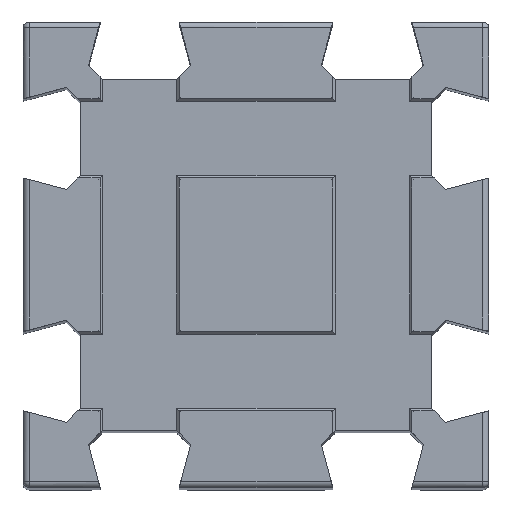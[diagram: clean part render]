
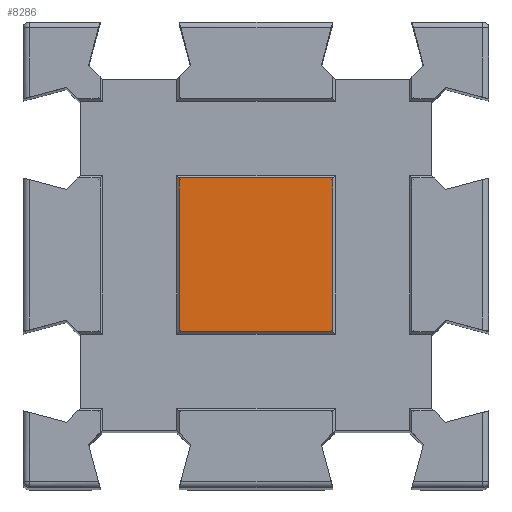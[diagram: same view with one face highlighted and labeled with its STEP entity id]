
A CAD part, top view. The second image highlights one B-rep face of the part: STEP entity #8286.
In plain terms, the highlighted planar face has unit normal (0, 0, 1).
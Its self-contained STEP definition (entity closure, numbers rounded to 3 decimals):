
#408=PLANE('',#8854);
#889=FACE_OUTER_BOUND('',#1373,.T.);
#1373=EDGE_LOOP('',(#7355,#7356,#7357,#7358));
#2366=LINE('',#13090,#3458);
#2378=LINE('',#13112,#3470);
#2389=LINE('',#13136,#3481);
#2391=LINE('',#13140,#3483);
#3458=VECTOR('',#10722,20.);
#3470=VECTOR('',#10746,20.);
#3481=VECTOR('',#10781,20.);
#3483=VECTOR('',#10787,20.);
#4295=VERTEX_POINT('',#13087);
#4296=VERTEX_POINT('',#13089);
#4299=VERTEX_POINT('',#13108);
#4300=VERTEX_POINT('',#13110);
#5350=EDGE_CURVE('',#4296,#4295,#2366,.T.);
#5362=EDGE_CURVE('',#4299,#4300,#2378,.T.);
#5373=EDGE_CURVE('',#4295,#4299,#2389,.T.);
#5375=EDGE_CURVE('',#4300,#4296,#2391,.T.);
#7355=ORIENTED_EDGE('',*,*,#5350,.T.);
#7356=ORIENTED_EDGE('',*,*,#5373,.T.);
#7357=ORIENTED_EDGE('',*,*,#5362,.T.);
#7358=ORIENTED_EDGE('',*,*,#5375,.T.);
#8286=ADVANCED_FACE('',(#889),#408,.T.);
#8854=AXIS2_PLACEMENT_3D('',#13139,#10785,#10786);
#10722=DIRECTION('',(1.,0.,0.));
#10746=DIRECTION('',(-1.,0.,0.));
#10781=DIRECTION('',(0.,1.,0.));
#10785=DIRECTION('center_axis',(0.,0.,1.));
#10786=DIRECTION('ref_axis',(0.,-1.,0.));
#10787=DIRECTION('',(0.,-1.,0.));
#13087=CARTESIAN_POINT('',(11.6,-29.6,21.));
#13089=CARTESIAN_POINT('',(-1.6,-29.6,21.));
#13090=CARTESIAN_POINT('',(-5.,-29.6,21.));
#13108=CARTESIAN_POINT('',(11.6,-16.4,21.));
#13110=CARTESIAN_POINT('',(-1.6,-16.4,21.));
#13112=CARTESIAN_POINT('',(-5.,-16.4,21.));
#13136=CARTESIAN_POINT('',(11.6,-33.,21.));
#13139=CARTESIAN_POINT('Origin',(5.,-23.,21.));
#13140=CARTESIAN_POINT('',(-1.6,-33.,21.));
